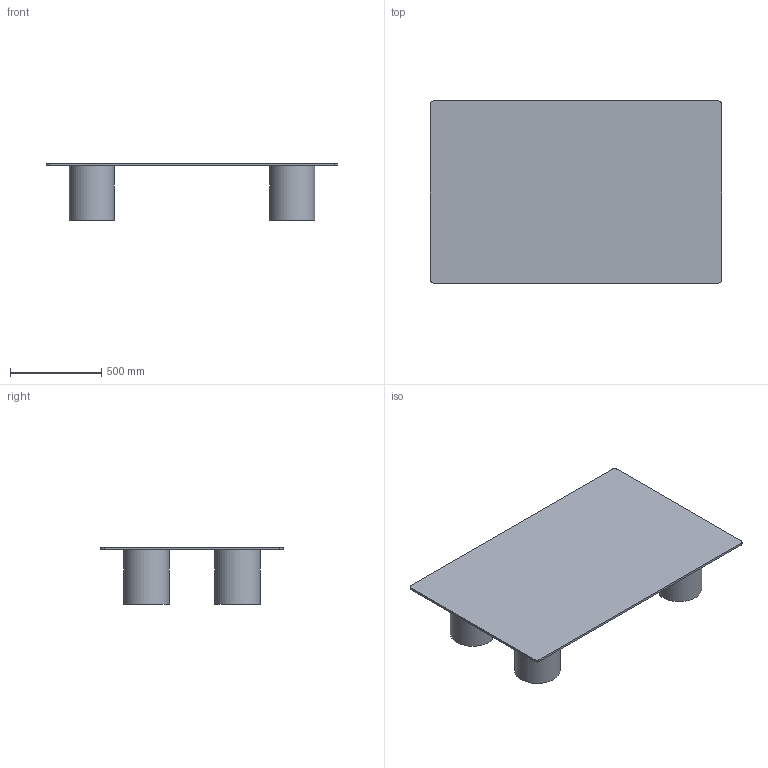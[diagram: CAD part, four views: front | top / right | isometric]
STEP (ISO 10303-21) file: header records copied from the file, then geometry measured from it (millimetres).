
FILE_DESCRIPTION(/* description */ (''),/* implementation_level */ '2;1');
FILE_NAME(/* name */ '0658 - Luxor 160x100 H30',/* time_stamp */ '2012-06-20T15:22:08+02:00',/* author */ (''),/* organization */ (''),/* preprocessor_version */ 'ST-DEVELOPER v10',/* originating_system */ '',/* authorisation */ '');
FILE_SCHEMA (('CONFIG_CONTROL_DESIGN'));
Length unit declared in the file: millimetre
Products named in the file (1): 1
Bounding box: 1600 x 1000 x 312 mm (x, y, z)
Volume: 26713975.8 mm3; surface area: 4842473.4 mm2
Topology: 5 solids, 5 shells, 38 faces, 84 edges, 56 vertices
Faces by surface type: plane 26, bspline 12
Entity records: 1264 total; most frequent: CARTESIAN_POINT 612, ORIENTED_EDGE 168, EDGE_CURVE 84, VERTEX_POINT 56, B_SPLINE_CURVE_WITH_KNOTS 52, ADVANCED_FACE 38, FACE_OUTER_BOUND 38, EDGE_LOOP 38
